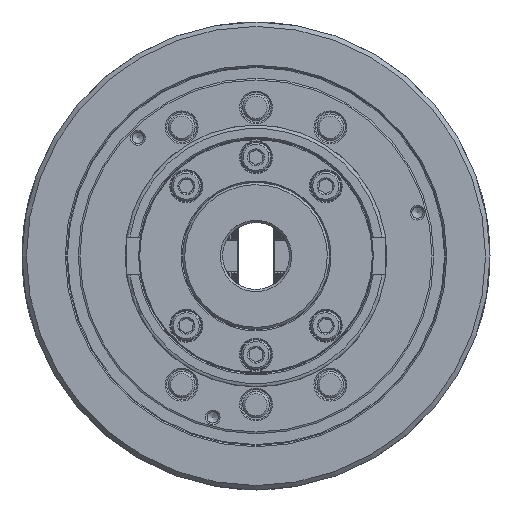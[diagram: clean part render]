
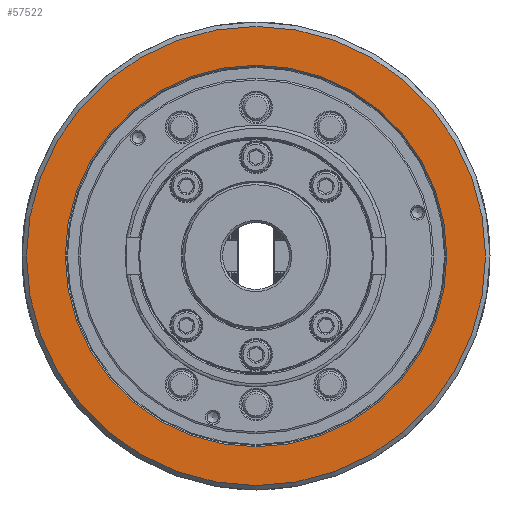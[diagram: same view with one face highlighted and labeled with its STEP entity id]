
A CAD part, left-side view. The second image highlights one B-rep face of the part: STEP entity #57522.
In plain terms, the highlighted planar face has unit normal (-1, 0, 0).
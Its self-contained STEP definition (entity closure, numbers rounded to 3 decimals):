
#597 = VERTEX_POINT ( 'NONE', #77114 ) ;
#2718 = CIRCLE ( 'NONE', #29245, 103. ) ;
#13085 = DIRECTION ( 'NONE',  ( 0., 0., -1. ) ) ;
#13836 = VERTEX_POINT ( 'NONE', #65440 ) ;
#17125 = EDGE_CURVE ( 'NONE', #13836, #13836, #69411, .T. ) ;
#19345 = PLANE ( 'NONE',  #61244 ) ;
#19758 = DIRECTION ( 'NONE',  ( 0., 0., -1. ) ) ;
#22445 = EDGE_LOOP ( 'NONE', ( #56658 ) ) ;
#25916 = ORIENTED_EDGE ( 'NONE', *, *, #17125, .T. ) ;
#26400 = CARTESIAN_POINT ( 'NONE',  ( -91., 0., 0. ) ) ;
#28309 = AXIS2_PLACEMENT_3D ( 'NONE', #57061, #63689, #81569 ) ;
#29245 = AXIS2_PLACEMENT_3D ( 'NONE', #26400, #50983, #19758 ) ;
#44363 = FACE_BOUND ( 'NONE', #74960, .T. ) ;
#44754 = CARTESIAN_POINT ( 'NONE',  ( -91., -85.6, 0. ) ) ;
#50983 = DIRECTION ( 'NONE',  ( 1., 0., 0. ) ) ;
#56658 = ORIENTED_EDGE ( 'NONE', *, *, #79394, .F. ) ;
#57061 = CARTESIAN_POINT ( 'NONE',  ( -91., 0., 0. ) ) ;
#57194 = FACE_OUTER_BOUND ( 'NONE', #22445, .T. ) ;
#57522 = ADVANCED_FACE ( 'NONE', ( #57194, #44363 ), #19345, .F. ) ;
#61244 = AXIS2_PLACEMENT_3D ( 'NONE', #44754, #68428, #13085 ) ;
#63689 = DIRECTION ( 'NONE',  ( 1., 0., 0. ) ) ;
#65440 = CARTESIAN_POINT ( 'NONE',  ( -91., 0., -85.6 ) ) ;
#68428 = DIRECTION ( 'NONE',  ( 1., 0., 0. ) ) ;
#69411 = CIRCLE ( 'NONE', #28309, 85.6 ) ;
#74960 = EDGE_LOOP ( 'NONE', ( #25916 ) ) ;
#77114 = CARTESIAN_POINT ( 'NONE',  ( -91., 0., -103. ) ) ;
#79394 = EDGE_CURVE ( 'NONE', #597, #597, #2718, .T. ) ;
#81569 = DIRECTION ( 'NONE',  ( 0., 0., -1. ) ) ;
